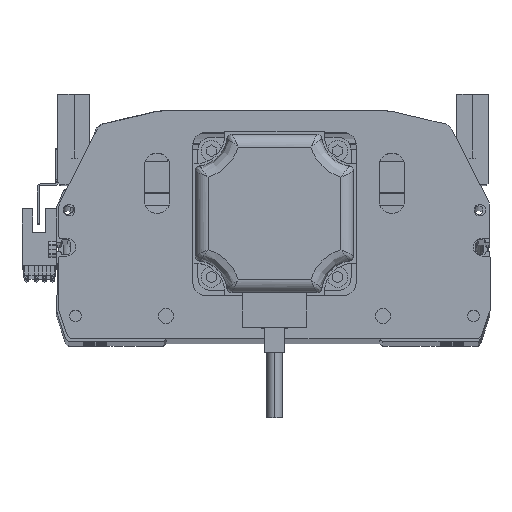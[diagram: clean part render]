
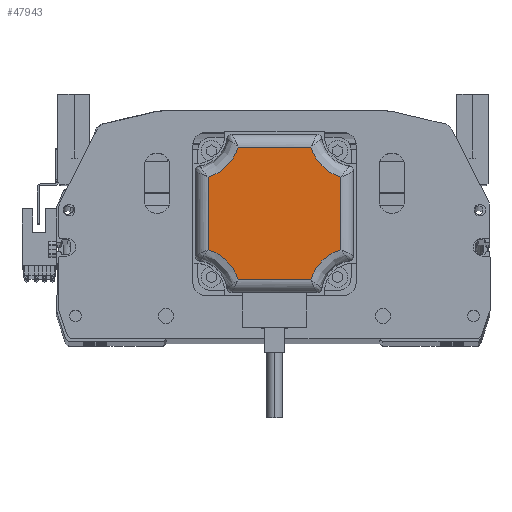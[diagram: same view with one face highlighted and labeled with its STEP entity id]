
A CAD part, top view. The second image highlights one B-rep face of the part: STEP entity #47943.
In plain terms, the highlighted planar face has unit normal (0, 0, 1) as drawn and (0, 0, -1) by its records, which use the part's own axes.
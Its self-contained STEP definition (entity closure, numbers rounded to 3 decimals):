
#1665 = VERTEX_POINT ( 'NONE', #3077 ) ;
#1735 = EDGE_CURVE ( 'NONE', #50026, #13008, #8259, .T. ) ;
#2798 = DIRECTION ( 'NONE',  ( 1., 0., 0. ) ) ;
#3007 = VECTOR ( 'NONE', #24599, 1000. ) ;
#3077 = CARTESIAN_POINT ( 'NONE',  ( 14.229, 26., -116.5 ) ) ;
#4244 = CARTESIAN_POINT ( 'NONE',  ( -20.219, 15.953, -116.5 ) ) ;
#4906 = VERTEX_POINT ( 'NONE', #40401 ) ;
#5722 =( BOUNDED_CURVE ( )  B_SPLINE_CURVE ( 3, ( #11774, #49931, #30696, #38985 ),
 .UNSPECIFIED., .F., .F. ) 
 B_SPLINE_CURVE_WITH_KNOTS ( ( 4, 4 ),
 ( 0., 1. ),
 .UNSPECIFIED. ) 
 CURVE ( )  GEOMETRIC_REPRESENTATION_ITEM ( )  RATIONAL_B_SPLINE_CURVE ( ( 1., 0.92, 0.92, 1. ) ) 
 REPRESENTATION_ITEM ( '' )  );
#5835 = VERTEX_POINT ( 'NONE', #10339 ) ;
#6638 = LINE ( 'NONE', #35445, #3007 ) ;
#8259 = LINE ( 'NONE', #37933, #45733 ) ;
#8621 = CARTESIAN_POINT ( 'NONE',  ( -26., -14.229, -116.5 ) ) ;
#9216 = ORIENTED_EDGE ( 'NONE', *, *, #17291, .F. ) ;
#9696 = EDGE_CURVE ( 'NONE', #29261, #1665, #5722, .T. ) ;
#10166 = CARTESIAN_POINT ( 'NONE',  ( -14.229, -26., -116.5 ) ) ;
#10339 = CARTESIAN_POINT ( 'NONE',  ( -26., -14.229, -116.5 ) ) ;
#10626 = PLANE ( 'NONE',  #36540 ) ;
#11118 = CARTESIAN_POINT ( 'NONE',  ( 15.5, 26., -116.5 ) ) ;
#11669 = CARTESIAN_POINT ( 'NONE',  ( 26., -14.229, -116.5 ) ) ;
#11774 = CARTESIAN_POINT ( 'NONE',  ( 26., 14.229, -116.5 ) ) ;
#11842 = CARTESIAN_POINT ( 'NONE',  ( 14.229, -26., -116.5 ) ) ;
#12172 = CARTESIAN_POINT ( 'NONE',  ( -15.953, -20.219, -116.5 ) ) ;
#12242 = ORIENTED_EDGE ( 'NONE', *, *, #33743, .F. ) ;
#13008 = VERTEX_POINT ( 'NONE', #49708 ) ;
#15700 = CARTESIAN_POINT ( 'NONE',  ( -14.229, 26., -116.5 ) ) ;
#16244 = ORIENTED_EDGE ( 'NONE', *, *, #43440, .F. ) ;
#17291 = EDGE_CURVE ( 'NONE', #19197, #29261, #6638, .T. ) ;
#18867 = CARTESIAN_POINT ( 'NONE',  ( 0., 0., -116.5 ) ) ;
#19197 = VERTEX_POINT ( 'NONE', #25162 ) ;
#19575 = CARTESIAN_POINT ( 'NONE',  ( 15.953, -20.219, -116.5 ) ) ;
#19658 = DIRECTION ( 'NONE',  ( 0., -1., 0. ) ) ;
#19733 = ORIENTED_EDGE ( 'NONE', *, *, #9696, .F. ) ;
#19908 = CARTESIAN_POINT ( 'NONE',  ( -14.229, 26., -116.5 ) ) ;
#19961 = ORIENTED_EDGE ( 'NONE', *, *, #47297, .F. ) ;
#22307 = EDGE_CURVE ( 'NONE', #13008, #19197, #34770, .T. ) ;
#23432 = LINE ( 'NONE', #35748, #39864 ) ;
#23448 = CARTESIAN_POINT ( 'NONE',  ( -15.953, 20.219, -116.5 ) ) ;
#24130 = CARTESIAN_POINT ( 'NONE',  ( -26., 14.229, -116.5 ) ) ;
#24599 = DIRECTION ( 'NONE',  ( 0., 1., 0. ) ) ;
#25162 = CARTESIAN_POINT ( 'NONE',  ( 26., -14.229, -116.5 ) ) ;
#25521 = EDGE_CURVE ( 'NONE', #5835, #50026, #47467, .T. ) ;
#26799 = EDGE_LOOP ( 'NONE', ( #16244, #19961, #19733, #9216, #30157, #36908, #45409, #12242 ) ) ;
#27002 = DIRECTION ( 'NONE',  ( -1., 0., 0. ) ) ;
#27562 = CARTESIAN_POINT ( 'NONE',  ( 20.219, -15.953, -116.5 ) ) ;
#27710 = CARTESIAN_POINT ( 'NONE',  ( -14.229, -26., -116.5 ) ) ;
#29197 = VECTOR ( 'NONE', #27002, 1000. ) ;
#29261 = VERTEX_POINT ( 'NONE', #40197 ) ;
#30157 = ORIENTED_EDGE ( 'NONE', *, *, #22307, .F. ) ;
#30696 = CARTESIAN_POINT ( 'NONE',  ( 15.953, 20.219, -116.5 ) ) ;
#33743 = EDGE_CURVE ( 'NONE', #4906, #5835, #23432, .T. ) ;
#34124 =( BOUNDED_CURVE ( )  B_SPLINE_CURVE ( 3, ( #15700, #23448, #4244, #24130 ),
 .UNSPECIFIED., .F., .F. ) 
 B_SPLINE_CURVE_WITH_KNOTS ( ( 4, 4 ),
 ( 0., 1. ),
 .UNSPECIFIED. ) 
 CURVE ( )  GEOMETRIC_REPRESENTATION_ITEM ( )  RATIONAL_B_SPLINE_CURVE ( ( 1., 0.92, 0.92, 1. ) ) 
 REPRESENTATION_ITEM ( '' )  );
#34770 =( BOUNDED_CURVE ( )  B_SPLINE_CURVE ( 3, ( #11842, #19575, #27562, #11669 ),
 .UNSPECIFIED., .F., .F. ) 
 B_SPLINE_CURVE_WITH_KNOTS ( ( 4, 4 ),
 ( 0., 1. ),
 .UNSPECIFIED. ) 
 CURVE ( )  GEOMETRIC_REPRESENTATION_ITEM ( )  RATIONAL_B_SPLINE_CURVE ( ( 1., 0.92, 0.92, 1. ) ) 
 REPRESENTATION_ITEM ( '' )  );
#35258 = LINE ( 'NONE', #11118, #29197 ) ;
#35319 = CARTESIAN_POINT ( 'NONE',  ( -20.219, -15.953, -116.5 ) ) ;
#35445 = CARTESIAN_POINT ( 'NONE',  ( 26., -15.5, -116.5 ) ) ;
#35748 = CARTESIAN_POINT ( 'NONE',  ( -26., 15.5, -116.5 ) ) ;
#36387 = FACE_OUTER_BOUND ( 'NONE', #26799, .T. ) ;
#36540 = AXIS2_PLACEMENT_3D ( 'NONE', #18867, #45941, #45782 ) ;
#36908 = ORIENTED_EDGE ( 'NONE', *, *, #1735, .F. ) ;
#37933 = CARTESIAN_POINT ( 'NONE',  ( -15.5, -26., -116.5 ) ) ;
#38985 = CARTESIAN_POINT ( 'NONE',  ( 14.229, 26., -116.5 ) ) ;
#39864 = VECTOR ( 'NONE', #19658, 1000. ) ;
#40197 = CARTESIAN_POINT ( 'NONE',  ( 26., 14.229, -116.5 ) ) ;
#40401 = CARTESIAN_POINT ( 'NONE',  ( -26., 14.229, -116.5 ) ) ;
#43440 = EDGE_CURVE ( 'NONE', #46897, #4906, #34124, .T. ) ;
#45409 = ORIENTED_EDGE ( 'NONE', *, *, #25521, .F. ) ;
#45733 = VECTOR ( 'NONE', #2798, 1000. ) ;
#45782 = DIRECTION ( 'NONE',  ( 1., 0., 0. ) ) ;
#45941 = DIRECTION ( 'NONE',  ( 0., 0., 1. ) ) ;
#46897 = VERTEX_POINT ( 'NONE', #19908 ) ;
#47297 = EDGE_CURVE ( 'NONE', #1665, #46897, #35258, .T. ) ;
#47467 =( BOUNDED_CURVE ( )  B_SPLINE_CURVE ( 3, ( #8621, #35319, #12172, #27710 ),
 .UNSPECIFIED., .F., .F. ) 
 B_SPLINE_CURVE_WITH_KNOTS ( ( 4, 4 ),
 ( 0., 1. ),
 .UNSPECIFIED. ) 
 CURVE ( )  GEOMETRIC_REPRESENTATION_ITEM ( )  RATIONAL_B_SPLINE_CURVE ( ( 1., 0.92, 0.92, 1. ) ) 
 REPRESENTATION_ITEM ( '' )  );
#47943 = ADVANCED_FACE ( 'NONE', ( #36387 ), #10626, .F. ) ;
#49708 = CARTESIAN_POINT ( 'NONE',  ( 14.229, -26., -116.5 ) ) ;
#49931 = CARTESIAN_POINT ( 'NONE',  ( 20.219, 15.953, -116.5 ) ) ;
#50026 = VERTEX_POINT ( 'NONE', #10166 ) ;
